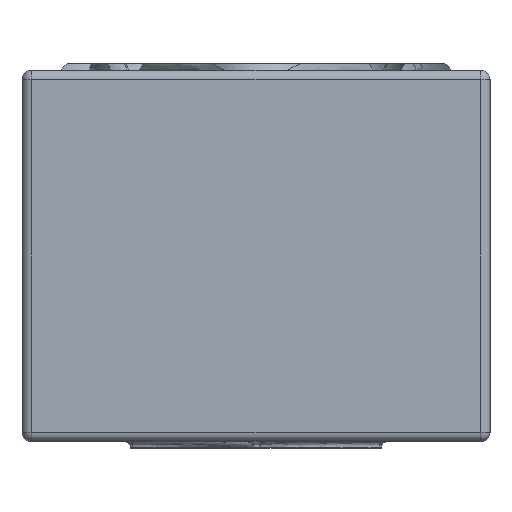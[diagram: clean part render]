
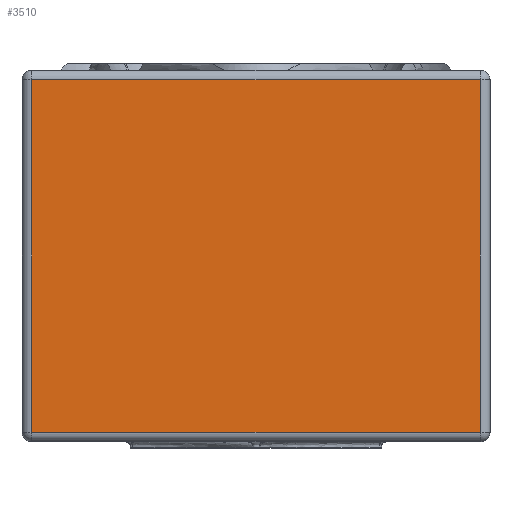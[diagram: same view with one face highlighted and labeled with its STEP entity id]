
A CAD part, front view. The second image highlights one B-rep face of the part: STEP entity #3510.
In plain terms, the highlighted planar face has unit normal (0, -1, 0).
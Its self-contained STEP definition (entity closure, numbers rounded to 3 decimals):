
#700=FACE_OUTER_BOUND('',#928,.T.);
#928=EDGE_LOOP('',(#3145,#3146,#3147,#3148));
#1076=LINE('',#15187,#1242);
#1077=LINE('',#15192,#1243);
#1079=LINE('',#15202,#1245);
#1080=LINE('',#15208,#1246);
#1242=VECTOR('',#4070,10.);
#1243=VECTOR('',#4077,10.);
#1245=VECTOR('',#4089,10.);
#1246=VECTOR('',#4100,10.);
#1640=VERTEX_POINT('',#15180);
#1643=VERTEX_POINT('',#15185);
#1644=VERTEX_POINT('',#15189);
#1645=VERTEX_POINT('',#15196);
#2141=EDGE_CURVE('',#1643,#1640,#1076,.T.);
#2144=EDGE_CURVE('',#1640,#1644,#1077,.T.);
#2149=EDGE_CURVE('',#1644,#1645,#1079,.T.);
#2153=EDGE_CURVE('',#1645,#1643,#1080,.T.);
#3145=ORIENTED_EDGE('',*,*,#2141,.F.);
#3146=ORIENTED_EDGE('',*,*,#2153,.F.);
#3147=ORIENTED_EDGE('',*,*,#2149,.F.);
#3148=ORIENTED_EDGE('',*,*,#2144,.F.);
#3301=PLANE('',#3698);
#3510=ADVANCED_FACE('',(#700),#3301,.T.);
#3698=AXIS2_PLACEMENT_3D('',#15218,#4117,#4118);
#4070=DIRECTION('',(0.,0.,1.));
#4077=DIRECTION('',(1.,0.,0.));
#4089=DIRECTION('',(0.,0.,-1.));
#4100=DIRECTION('',(-1.,0.,0.));
#4117=DIRECTION('center_axis',(0.,-1.,0.));
#4118=DIRECTION('ref_axis',(0.,0.,-1.));
#15180=CARTESIAN_POINT('',(-35.,-1.5,27.5));
#15185=CARTESIAN_POINT('',(-35.,-1.5,-27.5));
#15187=CARTESIAN_POINT('',(-35.,-1.5,-14.5));
#15189=CARTESIAN_POINT('',(35.,-1.5,27.5));
#15192=CARTESIAN_POINT('',(-18.25,-1.5,27.5));
#15196=CARTESIAN_POINT('',(35.,-1.5,-27.5));
#15202=CARTESIAN_POINT('',(35.,-1.5,14.5));
#15208=CARTESIAN_POINT('',(18.25,-1.5,-27.5));
#15218=CARTESIAN_POINT('Origin',(0.,-1.5,0.));
